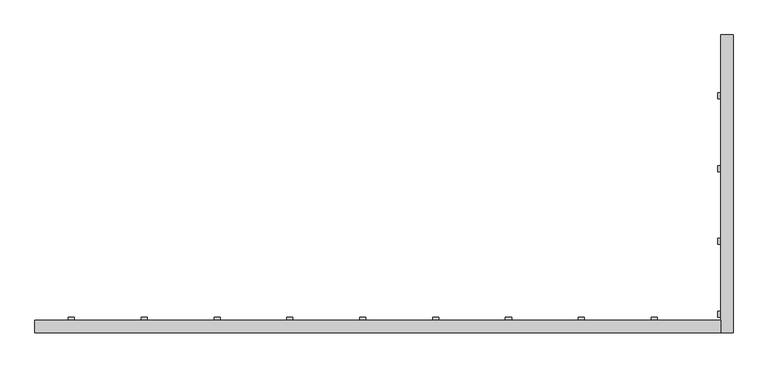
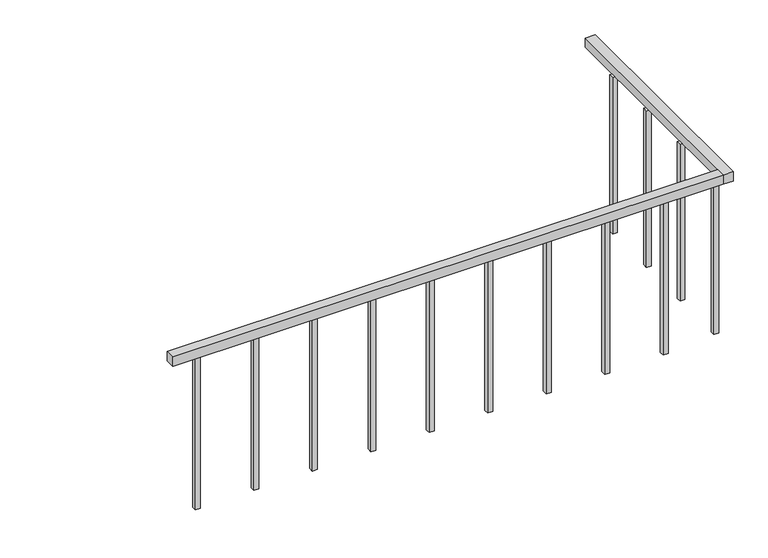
"""IFC4 building model written with IfcOpenShell, lengths in millimetres: railing geometry, ADSK_Стандартное_h 900 Поручень квадратный без направляющих."""

import ifcopenshell
import ifcopenshell.guid

model = None  # the IFC model being written
_history = None  # IfcOwnerHistory: only IFC2X3 demands one
_inside = {}  # id of a spatial element -> (the spatial element, [elements in it])
_under = {}  # id of a project, library or spatial element -> (it, [spatial elements below it])
_declared = {}  # id of a project -> (the project, [libraries it declares])
_typed = {}  # id of a type object -> (the type object, [elements of that type])
_made_of = {}  # id of a material, layer set ... -> (it, [elements and type objects made of it])


def new_model(schema):
    """Start an empty IFC model of exactly this schema.

    Asked for "IFC4X3", IfcOpenShell would pick the latest addendum, in which some entities
    have other attributes; the version numbers below select the first issue.
    IFC2X3 requires an IfcOwnerHistory on every rooted entity: one is made here for all.
    """
    global model, _history
    if schema == "IFC4X3":
        model = ifcopenshell.file(schema_version=(4, 3, 0, 0))
    else:
        model = ifcopenshell.file(schema=schema)
    _inside.clear()
    _under.clear()
    _declared.clear()
    _typed.clear()
    _made_of.clear()
    _history = None
    if model.schema == "IFC2X3":
        org = make("IfcOrganization", Name="unknown")
        user = make(
            "IfcPersonAndOrganization",
            ThePerson=make("IfcPerson", FamilyName="unknown"),
            TheOrganization=org,
        )
        app = make(
            "IfcApplication",
            ApplicationDeveloper=org,
            Version="unknown",
            ApplicationFullName="unknown",
            ApplicationIdentifier="unknown",
        )
        _history = make(
            "IfcOwnerHistory",
            OwningUser=user,
            OwningApplication=app,
            ChangeAction="ADDED",
            CreationDate=0,
        )
    return model


def make(cls, **values):
    """One entity of the class cls with the attributes given. An attribute that is None is left unset."""
    return model.create_entity(
        cls, **{name: value for name, value in values.items() if value is not None}
    )


def rooted(cls, **values):
    """An entity with a GlobalId (a new one), such as an element, a storey or a relation."""
    return make(cls, GlobalId=ifcopenshell.guid.new(), OwnerHistory=_history, **values)


def si_unit(unit_type, name, prefix=None):
    """IfcSIUnit, for example si_unit("LENGTHUNIT", "METRE", prefix="MILLI")."""
    return make("IfcSIUnit", UnitType=unit_type, Prefix=prefix, Name=name)


def assignment(units):
    """IfcUnitAssignment: the units of a project."""
    return None if units is None else make("IfcUnitAssignment", Units=units)


def point(xyz):
    """IfcCartesianPoint."""
    return None if xyz is None else make("IfcCartesianPoint", Coordinates=xyz)


def direction(xyz):
    """IfcDirection."""
    return None if xyz is None else make("IfcDirection", DirectionRatios=xyz)


def frame(location, z_axis=None, x_axis=None):
    """IfcAxis2Placement3D, a coordinate frame: its origin and axes. An axis left out is left unset."""
    return make(
        "IfcAxis2Placement3D",
        Location=point(location),
        Axis=direction(z_axis),
        RefDirection=direction(x_axis),
    )


def origin():
    """The frame at (0, 0, 0) with its axes left unset."""
    return frame((0.0, 0.0, 0.0))


def place(relative_to, where):
    """IfcLocalPlacement: puts the frame where relative to a parent placement (None: the world)."""
    return make(
        "IfcLocalPlacement", PlacementRelTo=relative_to, RelativePlacement=where
    )


def context(
    kind, dimensions, precision=None, world=None, true_north=None, identifier=None
):
    """IfcGeometricRepresentationContext, for example the 3D "Model" context."""
    return make(
        "IfcGeometricRepresentationContext",
        ContextIdentifier=identifier,
        ContextType=kind,
        CoordinateSpaceDimension=dimensions,
        Precision=precision,
        WorldCoordinateSystem=world,
        TrueNorth=true_north,
    )


def project(units=None, contexts=None):
    """IfcProject with its units and contexts."""
    return rooted(
        "IfcProject",
        Name="project",
        RepresentationContexts=contexts,
        UnitsInContext=assignment(units),
    )


def spatial(cls, under=None, at=None, **own):
    """A site, building, storey or space (cls), placed at a placement, below another one or the project."""
    s = rooted(cls, ObjectPlacement=at, **own)
    if under is not None:
        _under.setdefault(under.id(), (under, []))[1].append(s)
    return s


def polyline(points):
    """IfcPolyline through the points."""
    return make("IfcPolyline", Points=[point(p) for p in points])


def outline(outer, holes=None, kind="AREA"):
    """IfcArbitraryClosedProfileDef: a profile drawn as a closed curve; with holes, ...WithVoids."""
    if holes is None:
        return make("IfcArbitraryClosedProfileDef", ProfileType=kind, OuterCurve=outer)
    return make(
        "IfcArbitraryProfileDefWithVoids",
        ProfileType=kind,
        OuterCurve=outer,
        InnerCurves=holes,
    )


def extrude(swept, where, along, depth):
    """IfcExtrudedAreaSolid: the profile swept, set in the frame where, extruded along a direction by depth."""
    return make(
        "IfcExtrudedAreaSolid",
        SweptArea=swept,
        Position=where,
        ExtrudedDirection=direction(along),
        Depth=depth,
    )


def shape(context_of_items, identifier, shape_type, items):
    """IfcShapeRepresentation: the items that make up one representation, for example the "Body"."""
    return make(
        "IfcShapeRepresentation",
        ContextOfItems=context_of_items,
        RepresentationIdentifier=identifier,
        RepresentationType=shape_type,
        Items=items,
    )


def source(mapping_origin, context_of_items, identifier, shape_type, items):
    """IfcRepresentationMap: a shape defined once, which mapped items show again and again."""
    return make(
        "IfcRepresentationMap",
        MappingOrigin=mapping_origin,
        MappedRepresentation=shape(context_of_items, identifier, shape_type, items),
    )


def transform(
    local_origin,
    x_axis=None,
    y_axis=None,
    z_axis=None,
    scale=None,
    scale2=None,
    scale3=None,
    uniform=True,
):
    """IfcCartesianTransformationOperator3D, or its non-uniform kind. x_axis, y_axis, z_axis: its Axis1, 2, 3."""
    if uniform:
        return make(
            "IfcCartesianTransformationOperator3D",
            Axis1=direction(x_axis),
            Axis2=direction(y_axis),
            LocalOrigin=point(local_origin),
            Scale=scale,
            Axis3=direction(z_axis),
        )
    return make(
        "IfcCartesianTransformationOperator3DnonUniform",
        Axis1=direction(x_axis),
        Axis2=direction(y_axis),
        LocalOrigin=point(local_origin),
        Scale=scale,
        Axis3=direction(z_axis),
        Scale2=scale2,
        Scale3=scale3,
    )


def mapped(mapping_source, mapping_target):
    """IfcMappedItem: shows the shape of a source again, moved by a transform."""
    return make(
        "IfcMappedItem", MappingSource=mapping_source, MappingTarget=mapping_target
    )


def made_of(thing, what):
    """Note that an element or type object is made of a material, layer set ...; save() writes the relation."""
    if what is not None:
        _made_of.setdefault(what.id(), (what, []))[1].append(thing)
    return thing


def element(
    cls,
    number,
    at=None,
    inside=None,
    cuts=None,
    type_object=None,
    material=None,
    context=None,
    identifier="Body",
    shape_type=None,
    held_by="IfcProductDefinitionShape",
    body=None,
    shapes=None,
    **own,
):
    """One element of the class cls, such as IfcWall. Its Tag is "e" and its number.

    at: its placement. inside: the storey or other place that contains it. cuts: it is an
    opening in that element (IfcRelVoidsElement). A single representation is given by context,
    identifier, shape_type and body (its items); several are given by shapes. held_by: the class
    of the entity that holds the representations. save() writes the other relations.
    """
    e = rooted(cls, Tag="e%d" % number, ObjectPlacement=at, **own)
    if body is not None:
        shapes = [shape(context, identifier, shape_type, body)]
    if shapes is not None:
        e.Representation = make(held_by, Representations=shapes)
    if inside is not None:
        _inside.setdefault(inside.id(), (inside, []))[1].append(e)
    if cuts is not None:
        rooted(
            "IfcRelVoidsElement", RelatingBuildingElement=cuts, RelatedOpeningElement=e
        )
    if type_object is not None:
        _typed.setdefault(type_object.id(), (type_object, []))[1].append(e)
    return made_of(e, material)


def aggregate(whole, parts):
    """IfcRelAggregates: a whole, such as a stair, and the parts it consists of."""
    return rooted("IfcRelAggregates", RelatingObject=whole, RelatedObjects=parts)


def save(model, path):
    """Write the relations noted so far, then the file.

    IfcRelAggregates (storeys below a building ...), IfcRelContainedInSpatialStructure (elements
    in a storey), IfcRelDefinesByType, IfcRelAssociatesMaterial and IfcRelDeclares: one each for
    every whole, place, type object, material and project.
    """
    for whole, parts in _under.values():
        aggregate(whole, parts)
    for where, things in _inside.values():
        rooted(
            "IfcRelContainedInSpatialStructure",
            RelatedElements=things,
            RelatingStructure=where,
        )
    for kind, things in _typed.values():
        rooted("IfcRelDefinesByType", RelatedObjects=things, RelatingType=kind)
    for what, things in _made_of.values():
        rooted("IfcRelAssociatesMaterial", RelatedObjects=things, RelatingMaterial=what)
    for by, libraries in _declared.values():
        rooted("IfcRelDeclares", RelatingContext=by, RelatedDefinitions=libraries)
    model.write(path)


def railing_1d3197ab(model_context):
    return source(origin(), model_context, "Body", "SweptSolid", [
        extrude(outline(polyline([(-24802.3240021, 15293.8207341), (-24802.3240021, 15343.8207341), (-21977.7240021, 15343.8207341), (-21977.7240021, 15293.8207341), (-24802.3240021, 15293.8207341)])), frame((0.0, 0.0, 4495.8333333), z_axis=(0.0, 0.0, 1.0), x_axis=(1.0, 0.0, 0.0)), (0.0, 0.0, 1.0), 50.0),
        extrude(outline(polyline([(-21927.7240021, 15293.8207341), (-21977.7240021, 15293.8207341), (-21977.7240021, 16519.4362632), (-21927.7240021, 16519.4362632), (-21927.7240021, 15293.8207341)])), frame((0.0, 0.0, 4495.8333333), z_axis=(0.0, 0.0, 1.0), x_axis=(1.0, 0.0, 0.0)), (0.0, 0.0, 1.0), 50.0),
        extrude(outline(polyline([(-21965.2240021, 16256.7207341), (-21990.2240021, 16256.7207341), (-21990.2240021, 16281.7207341), (-21965.2240021, 16281.7207341), (-21965.2240021, 16256.7207341)])), frame((0.0, 0.0, 3645.8333333), z_axis=(0.0, 0.0, 1.0), x_axis=(1.0, 0.0, 0.0)), (0.0, 0.0, 1.0), 850.0),
        extrude(outline(polyline([(-21965.2240021, 15956.7207341), (-21990.2240021, 15956.7207341), (-21990.2240021, 15981.7207341), (-21965.2240021, 15981.7207341), (-21965.2240021, 15956.7207341)])), frame((0.0, 0.0, 3645.8333333), z_axis=(0.0, 0.0, 1.0), x_axis=(1.0, 0.0, 0.0)), (0.0, 0.0, 1.0), 850.0),
        extrude(outline(polyline([(-21965.2240021, 15656.7207341), (-21990.2240021, 15656.7207341), (-21990.2240021, 15681.7207341), (-21965.2240021, 15681.7207341), (-21965.2240021, 15656.7207341)])), frame((0.0, 0.0, 3645.8333333), z_axis=(0.0, 0.0, 1.0), x_axis=(1.0, 0.0, 0.0)), (0.0, 0.0, 1.0), 850.0),
        extrude(outline(polyline([(-21965.2240021, 15356.7207341), (-21990.2240021, 15356.7207341), (-21990.2240021, 15381.7207341), (-21965.2240021, 15381.7207341), (-21965.2240021, 15356.7207341)])), frame((0.0, 0.0, 3645.8333333), z_axis=(0.0, 0.0, 1.0), x_axis=(1.0, 0.0, 0.0)), (0.0, 0.0, 1.0), 850.0),
        extrude(outline(polyline([(-22264.8240021, 15331.3207341), (-22264.8240021, 15356.3207341), (-22239.8240021, 15356.3207341), (-22239.8240021, 15331.3207341), (-22264.8240021, 15331.3207341)])), frame((0.0, 0.0, 3645.8333333), z_axis=(0.0, 0.0, 1.0), x_axis=(1.0, 0.0, 0.0)), (0.0, 0.0, 1.0), 850.0),
        extrude(outline(polyline([(-22564.8240021, 15331.3207341), (-22564.8240021, 15356.3207341), (-22539.8240021, 15356.3207341), (-22539.8240021, 15331.3207341), (-22564.8240021, 15331.3207341)])), frame((0.0, 0.0, 3645.8333333), z_axis=(0.0, 0.0, 1.0), x_axis=(1.0, 0.0, 0.0)), (0.0, 0.0, 1.0), 850.0),
        extrude(outline(polyline([(-22864.8240021, 15331.3207341), (-22864.8240021, 15356.3207341), (-22839.8240021, 15356.3207341), (-22839.8240021, 15331.3207341), (-22864.8240021, 15331.3207341)])), frame((0.0, 0.0, 3645.8333333), z_axis=(0.0, 0.0, 1.0), x_axis=(1.0, 0.0, 0.0)), (0.0, 0.0, 1.0), 850.0),
        extrude(outline(polyline([(-23164.8240021, 15331.3207341), (-23164.8240021, 15356.3207341), (-23139.8240021, 15356.3207341), (-23139.8240021, 15331.3207341), (-23164.8240021, 15331.3207341)])), frame((0.0, 0.0, 3645.8333333), z_axis=(0.0, 0.0, 1.0), x_axis=(1.0, 0.0, 0.0)), (0.0, 0.0, 1.0), 850.0),
        extrude(outline(polyline([(-23464.8240021, 15331.3207341), (-23464.8240021, 15356.3207341), (-23439.8240021, 15356.3207341), (-23439.8240021, 15331.3207341), (-23464.8240021, 15331.3207341)])), frame((0.0, 0.0, 3645.8333333), z_axis=(0.0, 0.0, 1.0), x_axis=(1.0, 0.0, 0.0)), (0.0, 0.0, 1.0), 850.0),
        extrude(outline(polyline([(-23764.8240021, 15331.3207341), (-23764.8240021, 15356.3207341), (-23739.8240021, 15356.3207341), (-23739.8240021, 15331.3207341), (-23764.8240021, 15331.3207341)])), frame((0.0, 0.0, 3645.8333333), z_axis=(0.0, 0.0, 1.0), x_axis=(1.0, 0.0, 0.0)), (0.0, 0.0, 1.0), 850.0),
        extrude(outline(polyline([(-24064.8240021, 15331.3207341), (-24064.8240021, 15356.3207341), (-24039.8240021, 15356.3207341), (-24039.8240021, 15331.3207341), (-24064.8240021, 15331.3207341)])), frame((0.0, 0.0, 3645.8333333), z_axis=(0.0, 0.0, 1.0), x_axis=(1.0, 0.0, 0.0)), (0.0, 0.0, 1.0), 850.0),
        extrude(outline(polyline([(-24364.8240021, 15331.3207341), (-24364.8240021, 15356.3207341), (-24339.8240021, 15356.3207341), (-24339.8240021, 15331.3207341), (-24364.8240021, 15331.3207341)])), frame((0.0, 0.0, 3645.8333333), z_axis=(0.0, 0.0, 1.0), x_axis=(1.0, 0.0, 0.0)), (0.0, 0.0, 1.0), 850.0),
        extrude(outline(polyline([(-24664.8240021, 15331.3207341), (-24664.8240021, 15356.3207341), (-24639.8240021, 15356.3207341), (-24639.8240021, 15331.3207341), (-24664.8240021, 15331.3207341)])), frame((0.0, 0.0, 3645.8333333), z_axis=(0.0, 0.0, 1.0), x_axis=(1.0, 0.0, 0.0)), (0.0, 0.0, 1.0), 850.0),
    ])


if __name__ == "__main__":
    model = new_model("IFC4")
    model_context = context("Model", 3, world=origin())
    ifc_project = project(units=[si_unit("LENGTHUNIT", "METRE", prefix="MILLI")], contexts=[model_context])
    site = spatial("IfcSite", under=ifc_project)
    building = spatial("IfcBuilding", under=site)
    placement = place(None, origin())
    railing_shape = railing_1d3197ab(model_context)
    element("IfcRailing", 1, ObjectType="ADSK_Стандартное_h 900 Поручень квадратный без направляющих", at=placement, inside=building, context=model_context, shape_type="MappedRepresentation", body=[
        mapped(railing_shape, transform((0.0, 0.0, 0.0), x_axis=(1.0, 0.0, 0.0), y_axis=(0.0, 1.0, 0.0), z_axis=(0.0, 0.0, 1.0))),
    ])
    save(model, "model.ifc")
